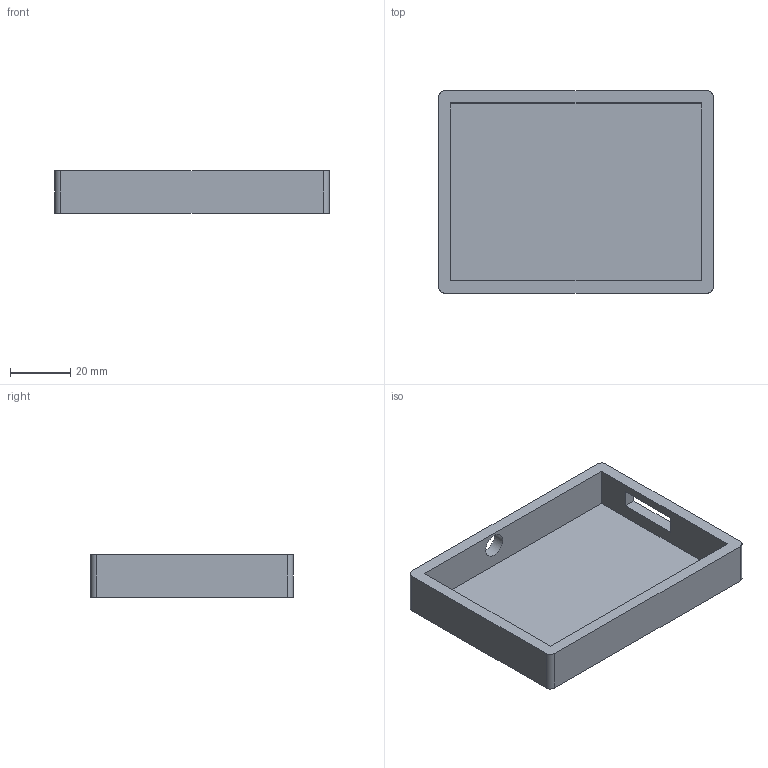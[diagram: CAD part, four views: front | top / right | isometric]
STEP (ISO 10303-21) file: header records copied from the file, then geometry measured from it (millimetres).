
FILE_DESCRIPTION(/* description */ ('STEP AP242 Edition 2','CAx-IF Rec.Pracs.---Representation and Presentation of Product Manufacturing Information (PMI)---4.0---2014-10-13','CAx-IF Rec.Pracs.---3D Tessellated Geometry---0.4---2014-09-14','2;1','CAx-IF Rec.Pracs.---User Defined Attributes---1.5---2016-08-15'),/* implementation_level */ '2;1');
FILE_NAME(/* name */ 'Part Studio 1 - Part 1',/* time_stamp */ '2026-11-25T23:28:50Z',/* author */ (''),/* organization */ (''),/* preprocessor_version */ 'ST-DEVELOPER v20',/* originating_system */ 'ONSHAPE BY PTC INC, 1.224',/* authorisation */ ' ');
FILE_SCHEMA (('AP242_MANAGED_MODEL_BASED_3D_ENGINEERING_MIM_LF { 1 0 10303 442 3 1 4 }'));
Length unit declared in the file: metre
Products named in the file (1): Part 1
Bounding box: 91 x 67 x 14 mm (x, y, z)
Volume: 20953.4 mm3; surface area: 20225.8 mm2
Topology: 1 solids, 1 shells, 20 faces, 52 edges, 35 vertices
Faces by surface type: plane 15, cylinder 5
Full cylindrical faces by diameter (mm): 8 x1
Entity records: 630 total; most frequent: CARTESIAN_POINT 105, DIRECTION 102, ORIENTED_EDGE 100, EDGE_CURVE 50, LINE 40, VECTOR 40, VERTEX_POINT 34, AXIS2_PLACEMENT_3D 31
